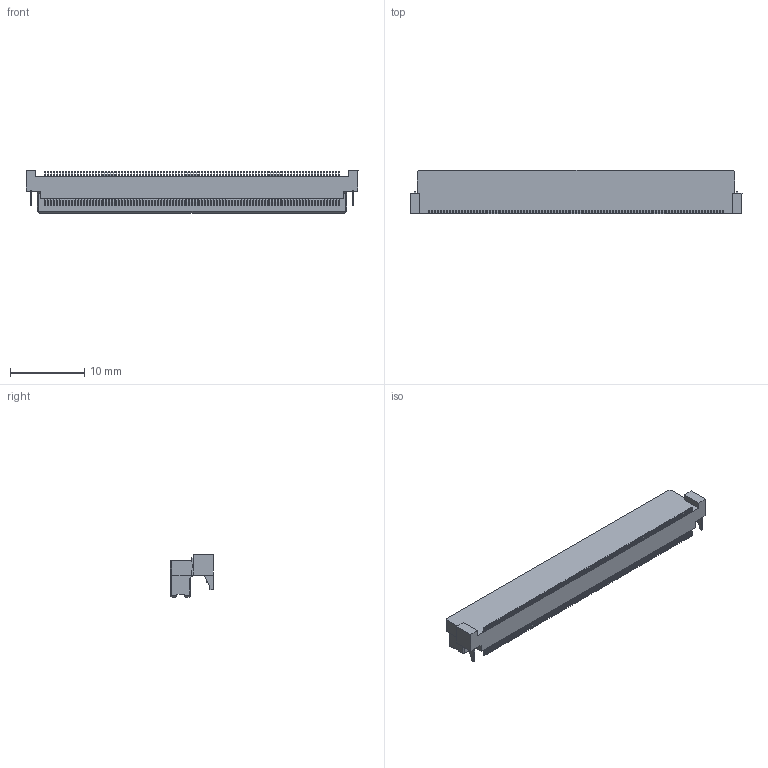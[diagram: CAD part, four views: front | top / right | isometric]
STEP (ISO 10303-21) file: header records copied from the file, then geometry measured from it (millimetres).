
FILE_DESCRIPTION(('Creo Elements/Direct Modeling STEP Export'),'2;1');
FILE_NAME('P3D162_DU10-200LB.stp','2017-11-27T14:36:48',(''),(''),'Creo Elements/Direct Modeling STEP processor for AP214 (Solid Model)','Creo Elements/Direct Modeling 19.0F 14-Feb-2017 (C) Parametric Technology GmbH','');
FILE_SCHEMA(('AUTOMOTIVE_DESIGN { 1 0 10303 214 1 1 1 1 }'));
Products named in the file (2): DU10-200LB
Assembly tree (1 placements, depth 2):
  DU10-200LB
    DU10-200LB
Bounding box: 44.8 x 5.83 x 5.75 mm (x, y, z)
Volume: 737.6 mm3; surface area: 1474.4 mm2
Topology: 1 solids, 1 shells, 2907 faces, 7497 edges, 4998 vertices
Faces by surface type: plane 2107, cylinder 800
Entity records: 86968 total; most frequent: CARTESIAN_POINT 15157, ORIENTED_EDGE 14994, DIRECTION 14428, EDGE_CURVE 7497, VECTOR 5890, LINE 5890, VERTEX_POINT 4998, AXIS2_PLACEMENT_3D 4269
